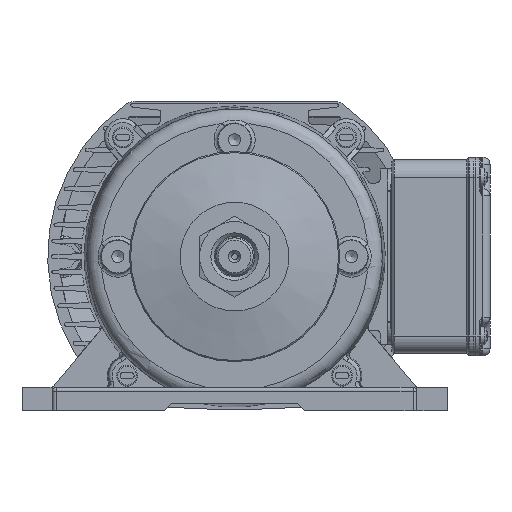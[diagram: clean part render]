
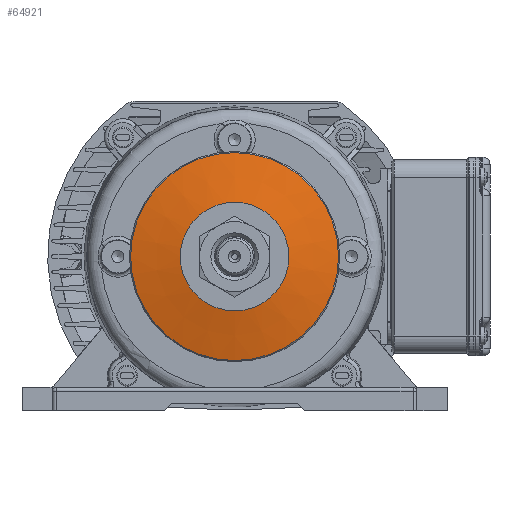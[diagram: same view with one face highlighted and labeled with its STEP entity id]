
A CAD part, left-side view. The second image highlights one B-rep face of the part: STEP entity #64921.
In plain terms, the highlighted conical face has half-angle 78 degrees and reference radius 32.202 mm.
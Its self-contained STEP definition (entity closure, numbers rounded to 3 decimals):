
#64890=CARTESIAN_POINT('',(6.518,0.,-44.511));
#64891=VERTEX_POINT('',#64890);
#64892=CARTESIAN_POINT('',(6.518,0.,0.0));
#64893=DIRECTION('',(1.0,0.0,0.0));
#64894=DIRECTION('',(0.0,0.0,1.0));
#64895=AXIS2_PLACEMENT_3D('',#64892,#64893,#64894);
#64896=CIRCLE('',#64895,44.511);
#64897=EDGE_CURVE('',#64891,#64891,#64896,.T.);
#64902=CARTESIAN_POINT('',(3.901,0.,0.0));
#64903=DIRECTION('',(1.0,0.,0.0));
#64904=DIRECTION('',(0.0,1.0,0.0));
#64905=AXIS2_PLACEMENT_3D('',#64902,#64903,#64904);
#64906=CONICAL_SURFACE('',#64905,32.202,78.);
#64907=CARTESIAN_POINT('',(2.,-23.257,0.));
#64908=VERTEX_POINT('',#64907);
#64909=CARTESIAN_POINT('',(2.,0.,0.0));
#64910=DIRECTION('',(1.0,0.0,0.0));
#64911=DIRECTION('',(0.0,1.0,0.0));
#64912=AXIS2_PLACEMENT_3D('',#64909,#64910,#64911);
#64913=CIRCLE('',#64912,23.257);
#64914=EDGE_CURVE('',#64908,#64908,#64913,.T.);
#64915=ORIENTED_EDGE('',*,*,#64914,.T.);
#64916=EDGE_LOOP('',(#64915));
#64917=FACE_OUTER_BOUND('',#64916,.T.);
#64918=ORIENTED_EDGE('',*,*,#64897,.F.);
#64919=EDGE_LOOP('',(#64918));
#64920=FACE_BOUND('',#64919,.T.);
#64921=ADVANCED_FACE('',(#64917,#64920),#64906,.T.);
